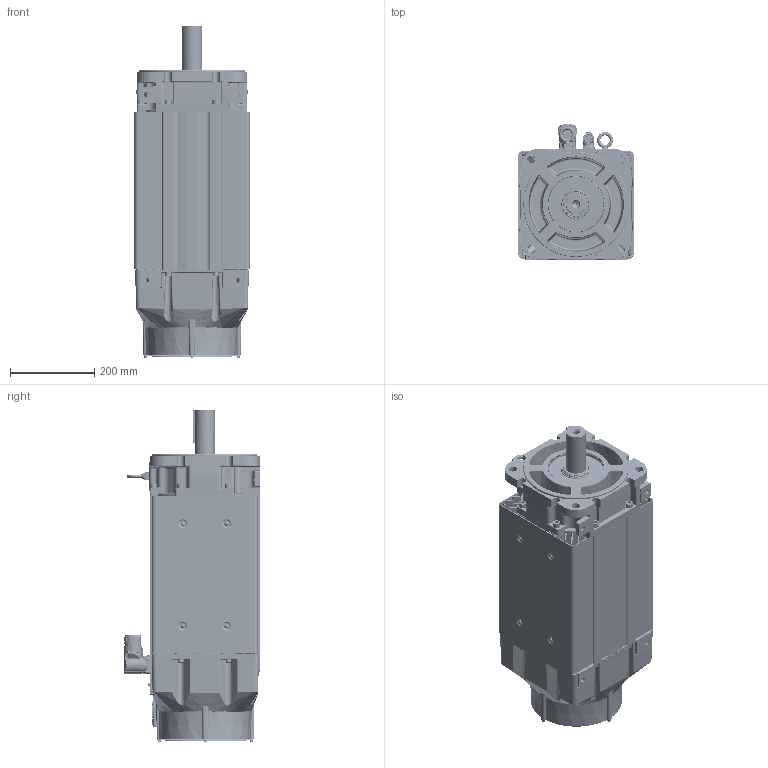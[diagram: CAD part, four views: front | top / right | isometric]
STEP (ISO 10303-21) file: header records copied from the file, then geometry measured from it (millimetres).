
FILE_DESCRIPTION((''),'2;1');
FILE_NAME('VPC-B3003A-SJ74FX_ASM','2016-09-27T',('SRGaddam'),('Rockwell Automation'),'PRO/ENGINEER BY PARAMETRIC TECHNOLOGY CORPORATION, 2012480','PRO/ENGINEER BY PARAMETRIC TECHNOLOGY CORPORATION, 2012480','');
FILE_SCHEMA(('CONFIG_CONTROL_DESIGN'));
Products named in the file (42): 10001404634_AF0; 10001404629_AF6; 10001404635_ASM; 10001585735; 10001441962; 10001737030; 10001448103; 10001587021; 10001405269_AF12; 10001405240_AF25; 10001405367_ASM; 10001946256; 10001956852; 10001989665; 10001713549_ASM; M4X7X14-SOCHD-CAP-SCR; 10001978970; 10001336508; 10001587431; CH4X063; 10001299929; 10001284567; 10000172464; 10001445961; 221404-Q12; 10000231113; 10002279234; 10001443420_ASM; 10001609981; 0002-5004; 10001586887; 10001439772; 0011-2084; 142403; 125284; 142403-1_ASM; M940_ASM; 142414_623; 135798_623; 142414-1_623_ASM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
Assembly tree (81 placements, depth 4):
  VPC-B3003A-SJ74FX_ASM
    10001404635_ASM
      10001404634_AF0
      10001404629_AF6
    10001585735  x8
    10001441962
    10001737030
    10001448103  x2
    10001587021  x8
    10001405367_ASM
      10001405269_AF12
      10001405240_AF25
    10001443420_ASM
      10001946256
      10001713549_ASM
        10001956852
        10001989665
      M4X7X14-SOCHD-CAP-SCR  x4
      10001978970
      10001336508
      10001587431
      CH4X063  x2
      10001299929
      10001284567
      10000172464  x4
      10001445961
      221404-Q12  x5
      10000231113
      10002279234
    10001609981
    0002-5004  x2
    10001586887  x6
    10001439772
    0011-2084
    M940_ASM
      142403-1_ASM
        142403
        125284
      221404-Q12  x4
    M623_ASM
      142414-1_623_ASM
        142414_623
        135798_623
      10000172464  x4
Bounding box: 275.91 x 324.15 x 787.35 mm (x, y, z)
Volume: 12750095.4 mm3; surface area: 3174182.1 mm2
Topology: 85 solids, 86 shells, 8042 faces, 19084 edges, 11471 vertices
Faces by surface type: cylinder 2443, plane 2249, bspline 1319, cone 1198, torus 685, sphere 142, extrusion 6
Entity records: 223631 total; most frequent: CARTESIAN_POINT 95272, ORIENTED_EDGE 27510, DIRECTION 25324, EDGE_CURVE 13755, AXIS2_PLACEMENT_3D 9773, VERTEX_POINT 8517, EDGE_LOOP 6204, VECTOR 5778
